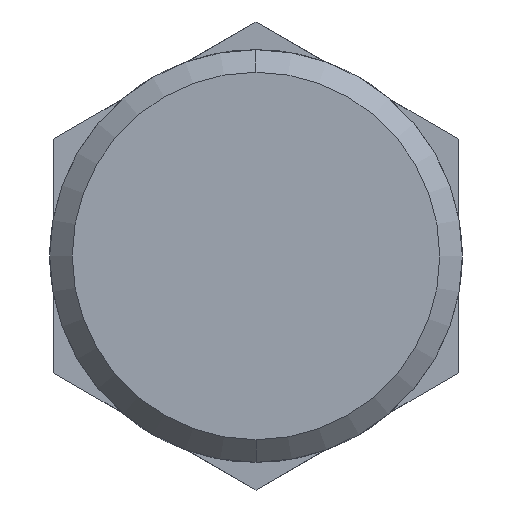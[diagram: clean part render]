
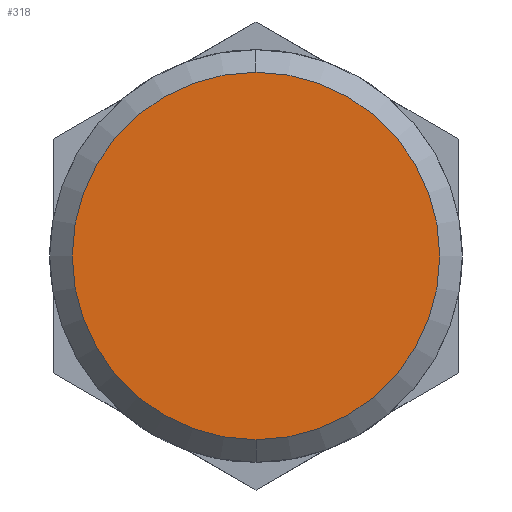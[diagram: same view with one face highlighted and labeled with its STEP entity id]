
A CAD part, left-side view. The second image highlights one B-rep face of the part: STEP entity #318.
In plain terms, the highlighted planar face has unit normal (-1, 0, 0).
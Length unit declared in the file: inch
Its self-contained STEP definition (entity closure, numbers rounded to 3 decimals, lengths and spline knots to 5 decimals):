
#73 = PLANE ( 'NONE',  #467 ) ;
#74 = CARTESIAN_POINT ( 'NONE',  ( -4.5, 0.6802, 0. ) ) ;
#75 = DIRECTION ( 'NONE',  ( -1., 0., 0. ) ) ;
#76 = DIRECTION ( 'NONE',  ( 0., 0., 1. ) ) ;
#138 = FACE_OUTER_BOUND ( 'NONE', #570, .T. ) ;
#270 = ORIENTED_EDGE ( 'NONE', *, *, #393, .F. ) ;
#271 = ORIENTED_EDGE ( 'NONE', *, *, #427, .F. ) ;
#299 = VERTEX_POINT ( 'NONE', #750 ) ;
#302 = VERTEX_POINT ( 'NONE', #753 ) ;
#318 = ADVANCED_FACE ( 'NONE', ( #138 ), #73, .T. ) ;
#393 = EDGE_CURVE ( 'NONE', #299, #302, #787, .T. ) ;
#427 = EDGE_CURVE ( 'NONE', #302, #299, #958, .T. ) ;
#467 = AXIS2_PLACEMENT_3D ( 'NONE', #74, #75, #76 ) ;
#501 = AXIS2_PLACEMENT_3D ( 'NONE', #641, #642, #643 ) ;
#513 = AXIS2_PLACEMENT_3D ( 'NONE', #836, #837, #838 ) ;
#570 = EDGE_LOOP ( 'NONE', ( #270, #271 ) ) ;
#641 = CARTESIAN_POINT ( 'NONE',  ( -4.5, 0., 0. ) ) ;
#642 = DIRECTION ( 'NONE',  ( 1., 0., 0. ) ) ;
#643 = DIRECTION ( 'NONE',  ( 0., 0., -1. ) ) ;
#750 = CARTESIAN_POINT ( 'NONE',  ( -4.5, 0., -0.6802 ) ) ;
#753 = CARTESIAN_POINT ( 'NONE',  ( -4.5, 0., 0.6802 ) ) ;
#787 = CIRCLE ( 'NONE', #501, 0.6802 ) ;
#836 = CARTESIAN_POINT ( 'NONE',  ( -4.5, 0., 0. ) ) ;
#837 = DIRECTION ( 'NONE',  ( 1., 0., 0. ) ) ;
#838 = DIRECTION ( 'NONE',  ( 0., 0., -1. ) ) ;
#958 = CIRCLE ( 'NONE', #513, 0.6802 ) ;
